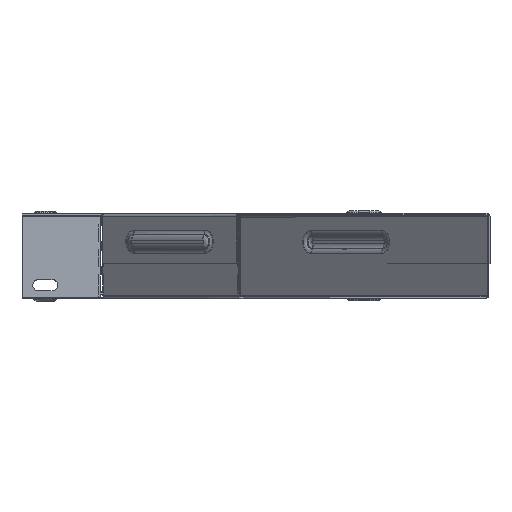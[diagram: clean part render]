
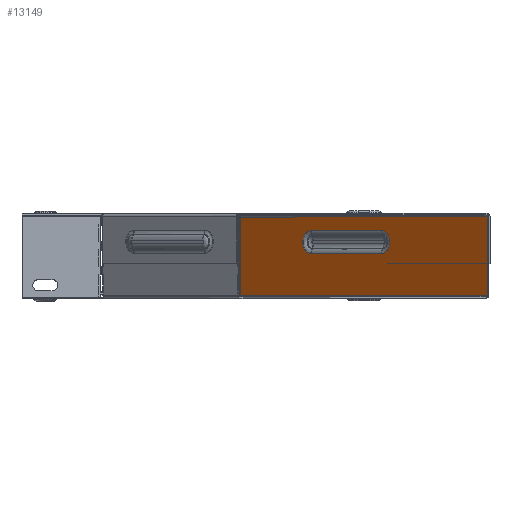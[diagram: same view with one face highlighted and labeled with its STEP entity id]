
A CAD part, top view. The second image highlights one B-rep face of the part: STEP entity #13149.
In plain terms, the highlighted planar face has unit normal (-0.707, 0, 0.707).
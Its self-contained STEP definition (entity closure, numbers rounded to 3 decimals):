
#105 = ORIENTED_EDGE ( 'NONE', *, *, #13630, .F. ) ;
#343 = DIRECTION ( 'NONE',  ( 0., 1., 0. ) ) ;
#542 = AXIS2_PLACEMENT_3D ( 'NONE', #7323, #12388, #9896 ) ;
#1613 = AXIS2_PLACEMENT_3D ( 'NONE', #3471, #7409, #16791 ) ;
#1861 = VECTOR ( 'NONE', #12551, 1000. ) ;
#1936 = AXIS2_PLACEMENT_3D ( 'NONE', #3085, #4446, #343 ) ;
#2636 = LINE ( 'NONE', #12962, #11309 ) ;
#3085 = CARTESIAN_POINT ( 'NONE',  ( 75.648, 33.1, -33.221 ) ) ;
#3098 = LINE ( 'NONE', #16020, #1861 ) ;
#3355 = CARTESIAN_POINT ( 'NONE',  ( 54.434, 26.183, -54.434 ) ) ;
#3447 = CARTESIAN_POINT ( 'NONE',  ( 54.434, 40.017, -54.434 ) ) ;
#3471 = CARTESIAN_POINT ( 'NONE',  ( 54.434, 0., -54.434 ) ) ;
#4144 = EDGE_CURVE ( 'NONE', #9177, #6397, #12062, .T. ) ;
#4446 = DIRECTION ( 'NONE',  ( -0.707, 0., 0.707 ) ) ;
#4517 = CARTESIAN_POINT ( 'NONE',  ( 139.123, 1., 30.255 ) ) ;
#4648 = DIRECTION ( 'NONE',  ( 0.707, 0., 0.707 ) ) ;
#5558 = DIRECTION ( 'NONE',  ( 0., 1., 0. ) ) ;
#6196 = CARTESIAN_POINT ( 'NONE',  ( 139.123, 0., 30.255 ) ) ;
#6278 = CARTESIAN_POINT ( 'NONE',  ( -30.255, 1., -139.123 ) ) ;
#6397 = VERTEX_POINT ( 'NONE', #14176 ) ;
#6649 = CARTESIAN_POINT ( 'NONE',  ( 75.648, 40.017, -33.221 ) ) ;
#7323 = CARTESIAN_POINT ( 'NONE',  ( 33.221, 33.1, -75.648 ) ) ;
#7409 = DIRECTION ( 'NONE',  ( -0.707, 0., 0.707 ) ) ;
#7798 = EDGE_LOOP ( 'NONE', ( #12059, #105, #12721, #13647 ) ) ;
#8002 = CARTESIAN_POINT ( 'NONE',  ( -30.255, 48.2, -139.123 ) ) ;
#8068 = ORIENTED_EDGE ( 'NONE', *, *, #8507, .F. ) ;
#8144 = VECTOR ( 'NONE', #4648, 1000. ) ;
#8507 = EDGE_CURVE ( 'NONE', #9177, #10184, #3098, .T. ) ;
#8741 = LINE ( 'NONE', #3355, #11023 ) ;
#8865 = PLANE ( 'NONE',  #1613 ) ;
#8951 = VECTOR ( 'NONE', #15568, 1000. ) ;
#8969 = VERTEX_POINT ( 'NONE', #8002 ) ;
#9103 = CARTESIAN_POINT ( 'NONE',  ( 33.221, 26.183, -75.648 ) ) ;
#9177 = VERTEX_POINT ( 'NONE', #4517 ) ;
#9848 = ORIENTED_EDGE ( 'NONE', *, *, #14925, .F. ) ;
#9896 = DIRECTION ( 'NONE',  ( 0., 1., 0. ) ) ;
#9927 = CARTESIAN_POINT ( 'NONE',  ( 33.221, 40.017, -75.648 ) ) ;
#10184 = VERTEX_POINT ( 'NONE', #6278 ) ;
#10316 = VECTOR ( 'NONE', #11511, 1000. ) ;
#10934 = ORIENTED_EDGE ( 'NONE', *, *, #4144, .T. ) ;
#11023 = VECTOR ( 'NONE', #11251, 1000. ) ;
#11251 = DIRECTION ( 'NONE',  ( 0.707, 0., 0.707 ) ) ;
#11309 = VECTOR ( 'NONE', #5558, 1000. ) ;
#11333 = VERTEX_POINT ( 'NONE', #15703 ) ;
#11511 = DIRECTION ( 'NONE',  ( -0.707, 0., -0.707 ) ) ;
#11812 = EDGE_CURVE ( 'NONE', #15844, #11333, #8741, .T. ) ;
#12059 = ORIENTED_EDGE ( 'NONE', *, *, #13511, .F. ) ;
#12062 = LINE ( 'NONE', #6196, #8951 ) ;
#12388 = DIRECTION ( 'NONE',  ( -0.707, 0., 0.707 ) ) ;
#12551 = DIRECTION ( 'NONE',  ( -0.707, 0., -0.707 ) ) ;
#12676 = EDGE_LOOP ( 'NONE', ( #8068, #10934, #9848, #16852 ) ) ;
#12721 = ORIENTED_EDGE ( 'NONE', *, *, #16803, .F. ) ;
#12776 = FACE_BOUND ( 'NONE', #7798, .T. ) ;
#12962 = CARTESIAN_POINT ( 'NONE',  ( -30.255, 0., -139.123 ) ) ;
#13149 = ADVANCED_FACE ( 'NONE', ( #12776, #14013 ), #8865, .T. ) ;
#13511 = EDGE_CURVE ( 'NONE', #16972, #15844, #15882, .T. ) ;
#13630 = EDGE_CURVE ( 'NONE', #14633, #16972, #14208, .T. ) ;
#13647 = ORIENTED_EDGE ( 'NONE', *, *, #11812, .F. ) ;
#13939 = LINE ( 'NONE', #16602, #8144 ) ;
#14013 = FACE_OUTER_BOUND ( 'NONE', #12676, .T. ) ;
#14176 = CARTESIAN_POINT ( 'NONE',  ( 139.123, 48.2, 30.255 ) ) ;
#14208 = LINE ( 'NONE', #3447, #10316 ) ;
#14602 = EDGE_CURVE ( 'NONE', #10184, #8969, #2636, .T. ) ;
#14633 = VERTEX_POINT ( 'NONE', #6649 ) ;
#14925 = EDGE_CURVE ( 'NONE', #8969, #6397, #13939, .T. ) ;
#15568 = DIRECTION ( 'NONE',  ( 0., 1., 0. ) ) ;
#15703 = CARTESIAN_POINT ( 'NONE',  ( 75.648, 26.183, -33.221 ) ) ;
#15844 = VERTEX_POINT ( 'NONE', #9103 ) ;
#15882 = CIRCLE ( 'NONE', #542, 6.917 ) ;
#15951 = CIRCLE ( 'NONE', #1936, 6.917 ) ;
#16020 = CARTESIAN_POINT ( 'NONE',  ( 139.434, 1., 30.566 ) ) ;
#16602 = CARTESIAN_POINT ( 'NONE',  ( 139.434, 48.2, 30.566 ) ) ;
#16791 = DIRECTION ( 'NONE',  ( 0.707, 0., 0.707 ) ) ;
#16803 = EDGE_CURVE ( 'NONE', #11333, #14633, #15951, .T. ) ;
#16852 = ORIENTED_EDGE ( 'NONE', *, *, #14602, .F. ) ;
#16972 = VERTEX_POINT ( 'NONE', #9927 ) ;
